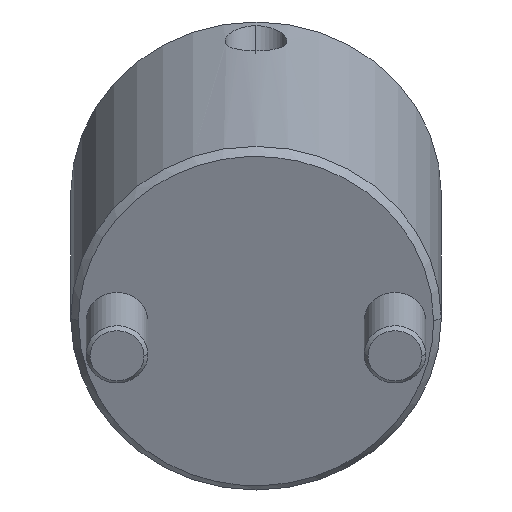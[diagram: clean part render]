
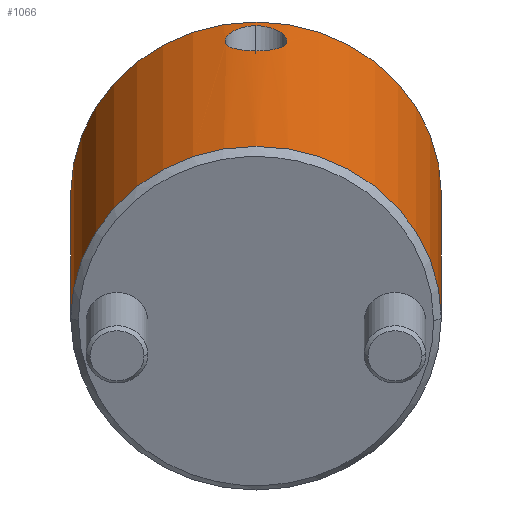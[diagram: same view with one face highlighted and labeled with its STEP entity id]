
A CAD part, front view. The second image highlights one B-rep face of the part: STEP entity #1066.
In plain terms, the highlighted cylindrical face has radius 24 mm (diameter 48 mm), a partial arc.
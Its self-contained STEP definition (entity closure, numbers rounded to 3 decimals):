
#808=CARTESIAN_POINT('Vertex',(0.,24.,1.)) ;
#811=CARTESIAN_POINT('Axis2P3D Location',(0.,0.,1.)) ;
#815=CARTESIAN_POINT('Vertex',(0.,-24.,1.)) ;
#967=CARTESIAN_POINT('Axis2P3D Location',(0.,0.,-2.25)) ;
#972=CARTESIAN_POINT('Line Origine',(0.,24.,-2.25)) ;
#976=CARTESIAN_POINT('Vertex',(0.,24.,44.)) ;
#979=CARTESIAN_POINT('Axis2P3D Location',(0.,0.,44.)) ;
#983=CARTESIAN_POINT('Vertex',(0.,-24.,44.)) ;
#986=CARTESIAN_POINT('Line Origine',(0.,-24.,-2.25)) ;
#998=CARTESIAN_POINT('Control Point',(24.,0.,42.696)) ;
#999=CARTESIAN_POINT('Control Point',(24.,0.373,42.696)) ;
#1000=CARTESIAN_POINT('Control Point',(23.993,0.739,42.646)) ;
#1001=CARTESIAN_POINT('Control Point',(23.979,1.097,42.549)) ;
#1002=CARTESIAN_POINT('Control Point',(23.939,1.793,42.264)) ;
#1003=CARTESIAN_POINT('Control Point',(23.881,2.415,41.809)) ;
#1004=CARTESIAN_POINT('Control Point',(23.849,2.711,41.532)) ;
#1005=CARTESIAN_POINT('Control Point',(23.79,3.182,40.976)) ;
#1006=CARTESIAN_POINT('Control Point',(23.739,3.536,40.33)) ;
#1007=CARTESIAN_POINT('Control Point',(23.719,3.664,40.041)) ;
#1008=CARTESIAN_POINT('Control Point',(23.686,3.874,39.44)) ;
#1009=CARTESIAN_POINT('Control Point',(23.667,3.981,38.813)) ;
#1010=CARTESIAN_POINT('Control Point',(23.663,4.01,38.496)) ;
#1011=CARTESIAN_POINT('Control Point',(23.663,4.011,37.97)) ;
#1012=CARTESIAN_POINT('Control Point',(23.675,3.939,37.455)) ;
#1013=CARTESIAN_POINT('Control Point',(23.681,3.899,37.255)) ;
#1014=CARTESIAN_POINT('Control Point',(23.706,3.746,36.668)) ;
#1015=CARTESIAN_POINT('Control Point',(23.745,3.497,36.124)) ;
#1016=CARTESIAN_POINT('Control Point',(23.775,3.289,35.783)) ;
#1017=CARTESIAN_POINT('Control Point',(23.832,2.858,35.241)) ;
#1018=CARTESIAN_POINT('Control Point',(23.889,2.326,34.806)) ;
#1019=CARTESIAN_POINT('Control Point',(23.911,2.084,34.644)) ;
#1020=CARTESIAN_POINT('Control Point',(23.954,1.546,34.35)) ;
#1021=CARTESIAN_POINT('Control Point',(23.984,0.96,34.166)) ;
#1022=CARTESIAN_POINT('Control Point',(23.995,0.644,34.1)) ;
#1023=CARTESIAN_POINT('Control Point',(24.,0.323,34.068)) ;
#1024=CARTESIAN_POINT('Control Point',(24.,0.,34.068)) ;
#1025=CARTESIAN_POINT('Vertex',(24.,0.,42.696)) ;
#1027=CARTESIAN_POINT('Vertex',(24.,0.,34.068)) ;
#1031=CARTESIAN_POINT('Control Point',(24.,0.,34.068)) ;
#1032=CARTESIAN_POINT('Control Point',(24.,-0.486,34.068)) ;
#1033=CARTESIAN_POINT('Control Point',(23.988,-0.966,34.141)) ;
#1034=CARTESIAN_POINT('Control Point',(23.963,-1.435,34.289)) ;
#1035=CARTESIAN_POINT('Control Point',(23.91,-2.136,34.637)) ;
#1036=CARTESIAN_POINT('Control Point',(23.846,-2.731,35.144)) ;
#1037=CARTESIAN_POINT('Control Point',(23.821,-2.936,35.354)) ;
#1038=CARTESIAN_POINT('Control Point',(23.772,-3.308,35.815)) ;
#1039=CARTESIAN_POINT('Control Point',(23.73,-3.592,36.337)) ;
#1040=CARTESIAN_POINT('Control Point',(23.712,-3.712,36.613)) ;
#1041=CARTESIAN_POINT('Control Point',(23.681,-3.903,37.188)) ;
#1042=CARTESIAN_POINT('Control Point',(23.665,-3.994,37.799)) ;
#1043=CARTESIAN_POINT('Control Point',(23.662,-4.014,38.113)) ;
#1044=CARTESIAN_POINT('Control Point',(23.664,-4.002,38.641)) ;
#1045=CARTESIAN_POINT('Control Point',(23.678,-3.918,39.161)) ;
#1046=CARTESIAN_POINT('Control Point',(23.686,-3.872,39.367)) ;
#1047=CARTESIAN_POINT('Control Point',(23.704,-3.758,39.776)) ;
#1048=CARTESIAN_POINT('Control Point',(23.729,-3.6,40.171)) ;
#1049=CARTESIAN_POINT('Control Point',(23.742,-3.51,40.362)) ;
#1050=CARTESIAN_POINT('Control Point',(23.771,-3.31,40.733)) ;
#1051=CARTESIAN_POINT('Control Point',(23.803,-3.071,41.078)) ;
#1052=CARTESIAN_POINT('Control Point',(23.82,-2.941,41.243)) ;
#1053=CARTESIAN_POINT('Control Point',(23.86,-2.605,41.624)) ;
#1054=CARTESIAN_POINT('Control Point',(23.898,-2.226,41.944)) ;
#1055=CARTESIAN_POINT('Control Point',(23.92,-1.985,42.113)) ;
#1056=CARTESIAN_POINT('Control Point',(23.959,-1.469,42.408)) ;
#1057=CARTESIAN_POINT('Control Point',(23.985,-0.91,42.595)) ;
#1058=CARTESIAN_POINT('Control Point',(23.995,-0.612,42.662)) ;
#1059=CARTESIAN_POINT('Control Point',(24.,-0.308,42.696)) ;
#1060=CARTESIAN_POINT('Control Point',(24.,0.,42.696)) ;
#812=DIRECTION('Axis2P3D Direction',(0.,0.,1.)) ;
#968=DIRECTION('Axis2P3D Direction',(0.,-0.,1.)) ;
#969=DIRECTION('Axis2P3D XDirection',(0.,-1.,0.)) ;
#973=DIRECTION('Vector Direction',(0.,0.,1.)) ;
#980=DIRECTION('Axis2P3D Direction',(0.,-0.,1.)) ;
#987=DIRECTION('Vector Direction',(0.,0.,1.)) ;
#813=AXIS2_PLACEMENT_3D('Circle Axis2P3D',#811,#812,$) ;
#970=AXIS2_PLACEMENT_3D('Cylinder Axis2P3D',#967,#968,#969) ;
#981=AXIS2_PLACEMENT_3D('Circle Axis2P3D',#979,#980,$) ;
#992=ORIENTED_EDGE('',*,*,#978,.F.) ;
#993=ORIENTED_EDGE('',*,*,#985,.T.) ;
#994=ORIENTED_EDGE('',*,*,#990,.T.) ;
#995=ORIENTED_EDGE('',*,*,#817,.F.) ;
#1063=ORIENTED_EDGE('',*,*,#1029,.T.) ;
#1064=ORIENTED_EDGE('',*,*,#1061,.T.) ;
#1065=FACE_BOUND('',#1062,.T.) ;
#974=VECTOR('Line Direction',#973,1.) ;
#988=VECTOR('Line Direction',#987,1.) ;
#1066=ADVANCED_FACE('MANIFOLD_SOLID_BREP #1138',(#996,#1065),#971,.T.) ;
#997=B_SPLINE_CURVE_WITH_KNOTS('',5,(#998,#999,#1000,#1001,#1002,#1003,#1004,#1005,#1006,#1007,#1008,#1009,#1010,#1011,#1012,#1013,#1014,#1015,#1016,#1017,#1018,#1019,#1020,#1021,#1022,#1023,#1024),.UNSPECIFIED.,.F.,.U.,(6,3,3,3,3,3,3,3,6),(0.,2.693,5.526,7.708,9.869,11.292,14.112,16.208,18.526),.UNSPECIFIED.) ;
#1030=B_SPLINE_CURVE_WITH_KNOTS('',5,(#1031,#1032,#1033,#1034,#1035,#1036,#1037,#1038,#1039,#1040,#1041,#1042,#1043,#1044,#1045,#1046,#1047,#1048,#1049,#1050,#1051,#1052,#1053,#1054,#1055,#1056,#1057,#1058,#1059,#1060),.UNSPECIFIED.,.F.,.U.,(6,3,3,3,3,3,3,3,3,6),(0.,3.487,5.592,7.718,9.853,11.307,12.759,14.188,16.298,18.521),.UNSPECIFIED.) ;
#814=CIRCLE('generated circle',#813,24.) ;
#982=CIRCLE('generated circle',#981,24.) ;
#971=CYLINDRICAL_SURFACE('generated cylinder',#970,24.) ;
#817=EDGE_CURVE('',#809,#816,#814,.F.) ;
#978=EDGE_CURVE('',#977,#809,#975,.F.) ;
#985=EDGE_CURVE('',#977,#984,#982,.F.) ;
#990=EDGE_CURVE('',#984,#816,#989,.F.) ;
#1029=EDGE_CURVE('',#1026,#1028,#997,.T.) ;
#1061=EDGE_CURVE('',#1028,#1026,#1030,.T.) ;
#991=EDGE_LOOP('',(#992,#993,#994,#995)) ;
#1062=EDGE_LOOP('',(#1063,#1064)) ;
#996=FACE_OUTER_BOUND('',#991,.T.) ;
#975=LINE('Line',#972,#974) ;
#989=LINE('Line',#986,#988) ;
#809=VERTEX_POINT('',#808) ;
#816=VERTEX_POINT('',#815) ;
#977=VERTEX_POINT('',#976) ;
#984=VERTEX_POINT('',#983) ;
#1026=VERTEX_POINT('',#1025) ;
#1028=VERTEX_POINT('',#1027) ;
